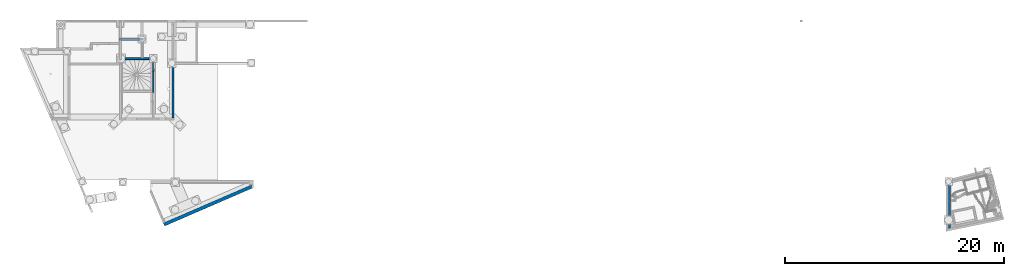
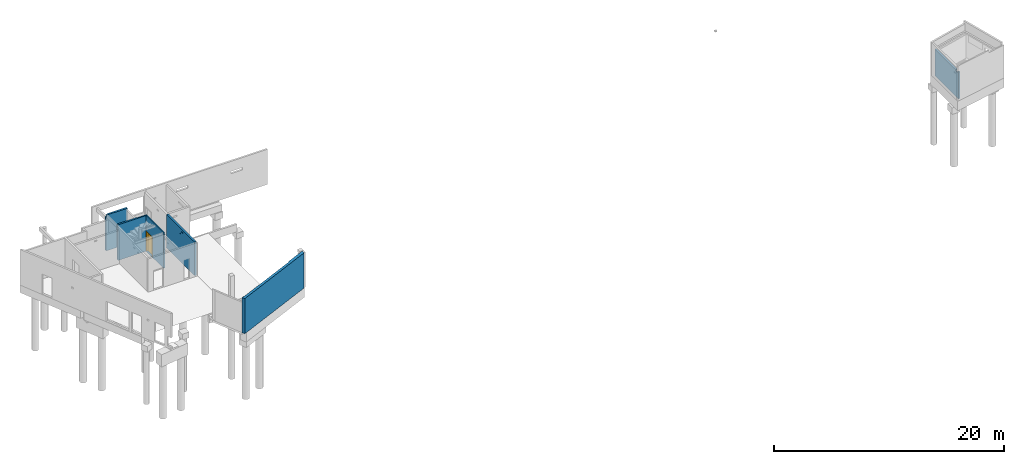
# One storey, part 15 of 29: 6 walls, 1 door, 1 opening.
"""IFC2X3 building model written with IfcOpenShell, lengths in centimetres."""

from ifc_helpers import new_model, entity, si_unit, converted_unit, derived_unit, direction, frame, frame_2d, origin, place, context, subcontext, project, spatial, rectangle, extrude, faceted_brep, source, transform, mapped, material, material_list, layer, layer_set, type_object, type_shapes, element, fill, save


model = new_model("IFC2X3")

# Units and contexts
model_context = context("Model", 3, precision=0.001, world=origin(), true_north=direction((6.12303176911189e-17, 1.0)))
body_context = subcontext(model_context, "Body", "Model", "MODEL_VIEW")
ifc_project = project(units=[si_unit("LENGTHUNIT", "METRE", prefix="CENTI"), si_unit("AREAUNIT", "SQUARE_METRE"), si_unit("VOLUMEUNIT", "CUBIC_METRE"), converted_unit("PLANEANGLEUNIT", "DEGREE", entity("IfcRatioMeasure", 0.0174532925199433), si_unit("PLANEANGLEUNIT", "RADIAN"), dimensions=[0, 0, 0, 0, 0, 0, 0]), si_unit("MASSUNIT", "GRAM", prefix="KILO"), derived_unit("MASSDENSITYUNIT", [(si_unit("MASSUNIT", "GRAM", prefix="KILO"), 1), (si_unit("LENGTHUNIT", "METRE"), -3)]), si_unit("TIMEUNIT", "SECOND"), si_unit("FREQUENCYUNIT", "HERTZ"), si_unit("THERMODYNAMICTEMPERATUREUNIT", "DEGREE_CELSIUS"), derived_unit("THERMALTRANSMITTANCEUNIT", [(si_unit("MASSUNIT", "GRAM", prefix="KILO"), 1), (si_unit("THERMODYNAMICTEMPERATUREUNIT", "KELVIN"), -1), (si_unit("TIMEUNIT", "SECOND"), -3)]), derived_unit("VOLUMETRICFLOWRATEUNIT", [(si_unit("LENGTHUNIT", "METRE"), 3), (si_unit("TIMEUNIT", "SECOND"), -1)]), si_unit("ELECTRICCURRENTUNIT", "AMPERE"), si_unit("ELECTRICVOLTAGEUNIT", "VOLT"), si_unit("POWERUNIT", "WATT"), si_unit("FORCEUNIT", "NEWTON"), si_unit("ILLUMINANCEUNIT", "LUX"), si_unit("LUMINOUSFLUXUNIT", "LUMEN"), si_unit("LUMINOUSINTENSITYUNIT", "CANDELA"), derived_unit("USERDEFINED", [(si_unit("MASSUNIT", "GRAM", prefix="KILO"), -1), (si_unit("LENGTHUNIT", "METRE"), -2), (si_unit("TIMEUNIT", "SECOND"), 3), (si_unit("LUMINOUSFLUXUNIT", "LUMEN"), 1)]), derived_unit("LINEARVELOCITYUNIT", [(si_unit("LENGTHUNIT", "METRE"), 1), (si_unit("TIMEUNIT", "SECOND"), -1)]), si_unit("PRESSUREUNIT", "PASCAL"), derived_unit("USERDEFINED", [(si_unit("LENGTHUNIT", "METRE"), -2), (si_unit("MASSUNIT", "GRAM", prefix="KILO"), 1), (si_unit("TIMEUNIT", "SECOND"), -2)])], contexts=[model_context])

# Site, building, storey
site_placement = place(None, origin())
site = spatial("IfcSite", under=ifc_project, at=site_placement, Name="Default", CompositionType="ELEMENT")
building_placement = place(site_placement, origin())
building = spatial("IfcBuilding", under=site, at=building_placement, Name="CAGE 03", CompositionType="ELEMENT")
storey_placement = place(building_placement, frame((0.0, 0.0, -34.0)))
storey = spatial("IfcBuildingStorey", under=building, at=storey_placement, Name="+3.66", CompositionType="ELEMENT", Elevation=-34.0000000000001)

# Wall
ifc_material_1 = material(Name="Béton, C25/30")
ifc_layer_1 = layer(ifc_material_1, 18.0)
ifc_layer_set_1 = layer_set([ifc_layer_1], Name="Mur de base:Voile BA 18")
wall_type_1 = type_object("IfcWallType", Name="Mur de base:Voile BA 18", PredefinedType="STANDARD", material=ifc_layer_set_1)
wall_1_placement = place(storey_placement, frame((3672.36582014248, 4941.66066607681, -5.0)))
element("IfcWall", 1, at=wall_1_placement, inside=storey, type_object=wall_type_1, Name="Mur de base:Voile BA 18", ObjectType="Mur de base:Voile BA 18", context=body_context, shape_type="Brep", body=[
    faceted_brep([(0.0, -9.0, 0.0), (195.0, -9.0, 0.0), (282.0, -9.0, 0.0), (300.0, -9.0, 0.0), (300.0, -9.0, 5.0), (300.0, -9.0, 215.0), (300.0, -9.0, 356.0), (294.500000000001, -9.0, 356.0), (294.500000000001, -9.0, 379.0), (282.0, -9.0, 379.0), (0.0, -9.0, 379.0), (300.0, 9.0, 0.0), (195.0, 9.0, 0.0), (0.0, 9.0, 0.0), (0.0, 9.0, 379.0), (195.0, 9.0, 379.0), (195.0, 9.0, 356.0), (300.0, 9.0, 356.0), (245.0, 9.0, 120.5), (245.0, 9.0, 99.5), (253.0, 9.0, 99.5), (253.0, 9.0, 120.5), (294.500000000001, 3.50000000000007, 379.0), (195.0, 3.50000000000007, 379.0), (195.0, 3.50000000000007, 356.0), (294.500000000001, 3.50000000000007, 356.0), (253.0, 3.0, 120.5), (253.0, 3.0, 99.5), (245.0, 3.0, 99.5), (245.0, 3.0, 120.5)], [[[0, 1, 2, 3, 4, 5, 6, 7, 8, 9, 10]], [[11, 12, 13, 14, 15, 16, 17], [18, 19, 20, 21]], [[3, 2, 1, 0, 13, 12, 11]], [[14, 10, 9, 8, 22, 23, 15]], [[3, 11, 17, 6, 5, 4]], [[0, 10, 14, 13]], [[24, 25, 7, 6, 17, 16]], [[25, 22, 8, 7]], [[25, 24, 23, 22]], [[23, 24, 16, 15]], [[26, 27, 28, 29]], [[29, 28, 19, 18]], [[28, 27, 20, 19]], [[27, 26, 21, 20]], [[26, 29, 18, 21]]]),
])

# Wall, opening, door
wall_2_placement = place(storey_placement, frame((3963.36582014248, 4932.66066607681, -5.0), z_axis=(0.0, 0.0, 1.0), x_axis=(0.0, -1.0, 0.0)))
wall_2 = element("IfcWall", 2, at=wall_2_placement, inside=storey, type_object=wall_type_1, Name="Mur de base:Voile BA 18", ObjectType="Mur de base:Voile BA 18", context=body_context, shape_type="Brep", body=[
    faceted_brep([(0.0, -9.0, 0.0), (282.0, -9.0, 0.0), (300.0, -9.0, 0.0), (300.0, -9.0, 5.0), (300.0, -9.0, 215.0), (300.0, -9.0, 356.0), (294.500000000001, -9.0, 356.0), (294.500000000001, -9.0, 379.0), (287.5, -9.0, 379.0), (282.0, -9.0, 379.0), (175.0, -9.0, 379.0), (0.0, -9.0, 379.0), (0.0, -9.0, 215.0), (107.0, -9.0, 215.0), (107.0, -9.0, 5.0), (0.0, -9.0, 5.0), (300.0, 9.0, 0.0), (0.0, 9.0, 0.0), (0.0, 9.0, 5.0), (107.0, 9.0, 5.0), (107.0, 9.0, 215.0), (0.0, 9.0, 215.0), (0.0, 9.0, 356.0), (300.0, 9.0, 356.0), (300.0, 9.0, 215.0), (300.0, 9.0, 5.0), (294.500000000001, 3.5000000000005, 379.0), (0.0, 3.5000000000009, 379.0), (0.0, 3.5000000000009, 356.0), (294.500000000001, 3.5000000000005, 356.0)], [[[0, 1, 2, 3, 4, 5, 6, 7, 8, 9, 10, 11, 12, 13, 14, 15]], [[16, 17, 18, 19, 20, 21, 22, 23, 24, 25]], [[2, 1, 0, 17, 16]], [[11, 10, 9, 8, 7, 26, 27]], [[17, 0, 15, 18]], [[2, 16, 25, 24, 23, 5, 4, 3]], [[20, 13, 12, 21]], [[19, 14, 13, 20]], [[14, 19, 18, 15]], [[28, 29, 6, 5, 23, 22]], [[29, 26, 7, 6]], [[26, 29, 28, 27]], [[12, 11, 27, 28, 22, 21]]]),
])
opening_placement = place(wall_2_placement, frame((0.0, -9.0, 5.0)))
opening = element("IfcOpeningElement", 3, at=opening_placement, cuts=wall_2, Name="Int. Simple:HB103:1", ObjectType="Opening", context=body_context, shape_type="SweptSolid", body=[
    extrude(rectangle(XDim=210.000000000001, YDim=107.0, at=frame_2d((105.000000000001, 53.4999999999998), x_axis=(1.0, 0.0))), frame((0.0, 0.0, 0.0), z_axis=(0.0, 1.0, 0.0), x_axis=(0.0, 0.0, 1.0)), (0.0, 0.0, 1.0), 18.0),
])
ifc_material_2 = material(Name="Finition Peinture - Blanc satiné")
ifc_material_3 = material(Name="Bois - Panneau de porte")
ifc_material_4 = material(Name="Bois - Cadre de porte")
ifc_material_list_1 = material_list([ifc_material_2, ifc_material_3, ifc_material_4])
ifc_material_list_2 = material_list([ifc_material_2, ifc_material_3, ifc_material_4])
door_style = type_object("IfcDoorStyle", Name="HB103", ConstructionType="NOTDEFINED", OperationType="SINGLE_SWING_LEFT", ParameterTakesPrecedence=False, Sizeable=False, material=ifc_material_list_2)
shared_shape = source(origin(), body_context, "Body", "Brep", [
    faceted_brep([(10.5352761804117, -0.500000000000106, 86.6003983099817), (11.5000000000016, -0.500000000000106, 87.0), (11.5000000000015, -0.500000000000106, 108.0), (10.5352761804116, -0.500000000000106, 108.399601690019), (9.50000000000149, -0.500000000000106, 108.535898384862), (8.46472381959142, -0.500000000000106, 108.399601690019), (7.50000000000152, -0.500000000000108, 108.0), (7.50000000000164, -0.500000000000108, 87.0), (8.46472381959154, -0.500000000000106, 86.6003983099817), (9.5000000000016, -0.500000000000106, 86.464101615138), (10.5352761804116, 0.0, 108.399601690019), (11.5000000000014, 0.0, 108.0), (11.5000000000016, 0.0, 87.0), (10.5352761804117, 0.0, 86.6003983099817), (9.5000000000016, 0.0, 86.464101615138), (8.46472381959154, 0.0, 86.6003983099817), (7.50000000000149, 0.0, 87.0), (7.50000000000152, 0.0, 108.0), (8.46472381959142, 0.0, 108.399601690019), (9.50000000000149, 0.0, 108.535898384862)], [[[0, 1, 2, 3, 4, 5, 6, 7, 8, 9]], [[10, 11, 12, 13, 14, 15, 16, 17, 18, 19]], [[16, 15, 8, 7]], [[8, 15, 14, 9]], [[14, 13, 0, 9]], [[13, 12, 1, 0]], [[2, 1, 12, 11]], [[11, 10, 3, 2]], [[3, 10, 19, 4]], [[19, 18, 5, 4]], [[18, 17, 6, 5]], [[7, 6, 17, 16]]]),
    faceted_brep([(10.5352761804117, 3.0, 86.6003983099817), (11.5000000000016, 3.0, 87.0), (11.5000000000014, 3.0, 108.0), (10.5352761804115, 3.0, 108.399601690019), (9.50000000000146, 3.0, 108.535898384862), (8.4647238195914, 3.0, 108.399601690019), (7.50000000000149, 3.0, 108.0), (7.50000000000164, 3.0, 87.0), (8.46472381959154, 3.0, 86.6003983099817), (9.50000000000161, 3.0, 86.464101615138), (10.5352761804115, 3.49999999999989, 108.399601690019), (11.5000000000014, 3.49999999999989, 108.0), (11.5000000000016, 3.49999999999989, 87.0), (10.5352761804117, 3.49999999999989, 86.6003983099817), (9.50000000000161, 3.49999999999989, 86.464101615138), (8.46472381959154, 3.49999999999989, 86.6003983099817), (7.50000000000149, 3.49999999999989, 87.0), (7.50000000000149, 3.49999999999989, 108.0), (8.4647238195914, 3.49999999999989, 108.399601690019), (9.50000000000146, 3.49999999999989, 108.535898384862)], [[[0, 1, 2, 3, 4, 5, 6, 7, 8, 9]], [[10, 11, 12, 13, 14, 15, 16, 17, 18, 19]], [[11, 10, 3, 2]], [[3, 10, 19, 4]], [[19, 18, 5, 4]], [[18, 17, 6, 5]], [[7, 6, 17, 16]], [[16, 15, 8, 7]], [[8, 15, 14, 9]], [[14, 13, 0, 9]], [[13, 12, 1, 0]], [[2, 1, 12, 11]]]),
    faceted_brep([(9.29747013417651, -0.500000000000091, 100.778044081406), (9.70252986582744, -0.500000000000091, 100.778044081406), (10.1000000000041, -0.500000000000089, 100.699999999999), (10.1000000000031, -0.500000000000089, 99.3000000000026), (9.7025298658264, -0.500000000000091, 99.2219559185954), (9.29747013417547, -0.500000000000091, 99.2219559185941), (8.89999999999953, -0.500000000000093, 99.2999999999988), (8.89999999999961, -0.500000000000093, 100.7), (8.8999999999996, -3.26509507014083, 100.7), (9.29747013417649, -3.1004575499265, 100.778044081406), (10.9023585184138, -4.70534593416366, 100.778044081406), (11.0701397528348, -4.30028620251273, 100.778044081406), (9.70252986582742, -2.93267631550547, 100.778044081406), (10.1000000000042, -2.76803879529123, 100.7), (10.1000000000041, -2.76803879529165, 99.3000000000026), (9.7025298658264, -2.93267631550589, 99.2219559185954), (11.0701397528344, -4.30028620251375, 99.2219559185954), (10.9023585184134, -4.70534593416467, 99.2219559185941), (9.29747013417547, -3.10045754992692, 99.2219559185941), (8.89999999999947, -3.26509507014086, 99.2999999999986), (10.7377209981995, -5.10281606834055, 100.7), (11.2347772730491, -3.90281606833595, 100.7), (11.2347772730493, -3.90281606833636, 99.3000000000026), (10.7377209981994, -5.10281606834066, 99.2999999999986), (19.5018640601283, -5.10281606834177, 99.2999999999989), (19.5018640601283, -4.70534593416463, 99.2219559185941), (19.5018640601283, -4.30028620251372, 99.2219559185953), (19.5018640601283, -3.90281606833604, 99.3000000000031), (19.5018640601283, -3.90281606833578, 100.7), (19.5018640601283, -4.30028620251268, 100.778044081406), (19.5018640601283, -4.7053459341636, 100.778044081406), (19.5018640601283, -5.10281606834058, 100.699999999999), (14.7307697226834, -5.10281606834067, 100.7), (15.2860019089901, -4.50281606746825, 100.78786867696), (15.3683206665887, -3.90281606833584, 100.7), (15.3683206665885, -3.90281606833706, 99.3000000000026), (15.2860018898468, -4.50281607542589, 99.2121313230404), (14.7307703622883, -5.10281606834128, 99.2999999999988)], [[[0, 1, 2, 3, 4, 5, 6, 7]], [[8, 9, 0, 7]], [[9, 10, 11, 12, 1, 0]], [[12, 13, 2, 1]], [[3, 2, 13, 14]], [[14, 15, 4, 3]], [[15, 16, 17, 18, 5, 4]], [[18, 19, 6, 5]], [[7, 6, 19, 8]], [[20, 10, 9, 8]], [[11, 21, 13, 12]], [[14, 13, 21, 22]], [[22, 16, 15, 14]], [[17, 23, 19, 18]], [[8, 19, 23, 20]], [[24, 25, 26, 27, 28, 29, 30, 31]], [[32, 30, 33]], [[31, 30, 32]], [[10, 20, 32]], [[33, 34, 11]], [[21, 11, 34]], [[34, 29, 28]], [[30, 29, 33]], [[29, 34, 33]], [[10, 32, 33]], [[10, 33, 11]], [[22, 21, 34, 28, 27, 35]], [[35, 26, 36]], [[37, 36, 25]], [[22, 35, 16]], [[35, 27, 26]], [[24, 37, 25]], [[23, 17, 37]], [[37, 17, 36]], [[17, 16, 36]], [[16, 35, 36]], [[25, 36, 26]], [[20, 23, 37, 24, 31, 32]]]),
    faceted_brep([(9.29747013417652, 3.49999999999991, 100.778044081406), (8.89999999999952, 3.4999999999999, 100.7), (8.89999999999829, 3.4999999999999, 99.299999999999), (9.29747013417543, 3.49999999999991, 99.2219559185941), (9.70252986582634, 3.49999999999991, 99.2219559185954), (10.1000000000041, 3.49999999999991, 99.3000000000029), (10.1000000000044, 3.49999999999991, 100.7), (9.70252986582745, 3.49999999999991, 100.778044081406), (10.1000000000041, 5.74852045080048, 99.3000000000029), (10.1000000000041, 5.74852045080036, 100.7), (9.70252986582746, 5.91315797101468, 100.778044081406), (11.0838906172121, 7.29451872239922, 100.778044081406), (10.9161093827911, 7.69957845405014, 100.778044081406), (9.29747013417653, 6.08093920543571, 100.778044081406), (8.89999999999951, 6.2455767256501, 100.7), (8.8999999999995, 6.24557672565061, 99.299999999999), (9.29747013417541, 6.08093920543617, 99.2219559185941), (10.9161093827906, 7.69957845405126, 99.2219559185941), (11.0838906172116, 7.29451872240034, 99.2219559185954), (9.70252986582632, 5.91315797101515, 99.2219559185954), (11.2485281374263, 6.89704858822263, 99.3000000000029), (11.2485281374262, 6.89704858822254, 100.7), (10.7514718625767, 8.09704858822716, 100.7), (10.7514718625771, 8.09704858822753, 99.299999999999), (19.5045783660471, 6.8970485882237, 99.3000000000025), (19.5045783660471, 7.29451872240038, 99.2219559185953), (19.5045783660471, 7.6995784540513, 99.2219559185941), (19.5045783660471, 8.09704858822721, 99.2999999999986), (19.5045783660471, 8.0970485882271, 100.7), (19.5045783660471, 7.6995784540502, 100.778044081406), (19.5045783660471, 7.29451872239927, 100.778044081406), (19.5045783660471, 6.89704858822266, 100.7), (15.3765532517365, 6.89704858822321, 99.3000000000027), (15.3765532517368, 6.89704858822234, 100.7), (15.2942344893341, 7.4970485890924, 100.78786867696), (14.7445205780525, 8.09704858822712, 100.7), (14.7445205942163, 8.09704858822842, 99.299999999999), (15.2942345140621, 7.49704858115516, 99.2121313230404)], [[[0, 1, 2, 3, 4, 5, 6, 7]], [[6, 5, 8, 9]], [[9, 10, 7, 6]], [[10, 11, 12, 13, 0, 7]], [[13, 14, 1, 0]], [[2, 1, 14, 15]], [[15, 16, 3, 2]], [[16, 17, 18, 19, 4, 3]], [[19, 8, 5, 4]], [[9, 8, 20, 21]], [[21, 11, 10, 9]], [[12, 22, 14, 13]], [[15, 14, 22, 23]], [[23, 17, 16, 15]], [[18, 20, 8, 19]], [[24, 25, 26, 27, 28, 29, 30, 31]], [[21, 20, 32, 24, 31, 33]], [[33, 30, 34]], [[35, 34, 29]], [[21, 33, 11]], [[33, 31, 30]], [[28, 35, 29]], [[22, 12, 35]], [[35, 12, 34]], [[12, 11, 34]], [[11, 33, 34]], [[29, 34, 30]], [[22, 35, 28, 27, 36, 23]], [[36, 26, 37]], [[27, 26, 36]], [[17, 23, 36]], [[37, 32, 18]], [[20, 18, 32]], [[32, 25, 24]], [[26, 25, 37]], [[25, 32, 37]], [[17, 36, 37]], [[17, 37, 18]]]),
    faceted_brep([(3.5000000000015, 3.0, 206.5), (103.500000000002, 3.0, 206.5), (103.500000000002, 3.0, 0.0), (3.5000000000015, 3.0, 0.0), (3.5000000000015, 0.0, 206.5), (3.5000000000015, 0.0, 0.0), (103.500000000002, 0.0, 0.0), (103.500000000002, 0.0, 206.5)], [[[0, 1, 2, 3]], [[4, 5, 6, 7]], [[1, 0, 4, 7]], [[2, 1, 7, 6]], [[3, 2, 6, 5]], [[0, 3, 5, 4]]]),
    faceted_brep([(0.0, 0.0, 0.0), (0.0, 18.0, 0.0), (5.0, 18.0, 0.0), (5.0, 3.0, 0.0), (3.50000000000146, 3.0, 0.0), (3.50000000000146, 0.0, 0.0), (0.0, 0.0, 210.0), (0.0, 18.0, 210.0), (107.0, 18.0, 210.0), (107.0, 18.0, 0.0), (102.0, 18.0, 0.0), (102.0, 18.0, 205.0), (5.0, 18.0, 205.0), (5.0, 3.0, 205.0), (102.0, 3.0, 205.0), (102.0, 3.0, 0.0), (103.499999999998, 3.0, 0.0), (103.499999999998, 3.0, 206.5), (3.50000000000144, 3.0, 206.5), (3.50000000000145, 0.0, 206.5), (103.499999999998, 0.0, 206.5), (103.499999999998, 0.0, 0.0), (107.0, 0.0, 0.0), (107.0, 0.0, 210.0)], [[[0, 1, 2, 3, 4, 5]], [[1, 0, 6, 7]], [[2, 1, 7, 8, 9, 10, 11, 12]], [[3, 2, 12, 13]], [[4, 3, 13, 14, 15, 16, 17, 18]], [[5, 4, 18, 19]], [[0, 5, 19, 20, 21, 22, 23, 6]], [[8, 23, 22, 9]], [[22, 21, 16, 15, 10, 9]], [[14, 11, 10, 15]], [[20, 17, 16, 21]], [[7, 6, 23, 8]], [[13, 12, 11, 14]], [[19, 18, 17, 20]]]),
    faceted_brep([(1.49999999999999, 18.0, 0.0), (-1.5, 18.0, 0.0), (-1.5, 18.5000000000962, 0.0), (1.49999999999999, 18.5000000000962, 0.0), (1.49999999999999, 18.0, 208.500000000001), (105.5, 18.0, 208.500000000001), (105.5, 18.0, 0.0), (108.5, 18.0, 0.0), (108.5, 18.0, 211.500000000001), (-1.50000000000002, 18.0, 211.500000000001), (-1.5, 18.5000000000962, 211.500000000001), (108.5, 18.5000000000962, 211.500000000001), (108.5, 18.5000000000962, 0.0), (105.5, 18.5000000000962, 0.0), (105.5, 18.5000000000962, 208.500000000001), (1.49999999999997, 18.5000000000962, 208.500000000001)], [[[0, 1, 2, 3]], [[1, 0, 4, 5, 6, 7, 8, 9]], [[2, 1, 9, 10]], [[3, 2, 10, 11, 12, 13, 14, 15]], [[0, 3, 15, 4]], [[6, 13, 12, 7]], [[5, 14, 13, 6]], [[11, 8, 7, 12]], [[10, 9, 8, 11]], [[4, 15, 14, 5]]]),
    faceted_brep([(-1.5, -0.5, 0.0), (1.49999999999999, -0.5, 0.0), (1.49999999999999, -0.5, 208.500000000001), (105.5, -0.5, 208.500000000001), (105.5, -0.5, 0.0), (108.5, -0.5, 0.0), (108.5, -0.5, 211.500000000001), (-1.50000000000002, -0.5, 211.500000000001), (-1.5, 0.0, 0.0), (-1.5, 0.0, 211.500000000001), (1.49999999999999, 0.0, 0.0), (108.5, 0.0, 211.500000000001), (108.5, 0.0, 0.0), (105.5, 0.0, 0.0), (105.5, 0.0, 208.500000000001), (1.49999999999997, 0.0, 208.500000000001)], [[[0, 1, 2, 3, 4, 5, 6, 7]], [[8, 0, 7, 9]], [[10, 8, 9, 11, 12, 13, 14, 15]], [[1, 10, 15, 2]], [[3, 14, 13, 4]], [[11, 6, 5, 12]], [[9, 7, 6, 11]], [[2, 15, 14, 3]], [[4, 13, 12, 5]], [[1, 0, 8, 10]]]),
])
type_shapes(door_style, [shared_shape])
door_placement = place(opening_placement, frame((107.0, 18.0, 0.0), z_axis=(0.0, 0.0, 1.0), x_axis=(-1.0, 0.0, 0.0)))
door = element("IfcDoor", 4, at=door_placement, inside=storey, type_object=door_style, material=ifc_material_list_1, Name="Int. Simple:HB103", ObjectType="HB103", OverallHeight=210.000000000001, OverallWidth=107.0, context=body_context, shape_type="MappedRepresentation", body=[
    mapped(shared_shape, transform((0.0, 0.0, 0.0), scale=1.0)),
])
fill(opening, door)

# Walls
wall_3_placement = place(storey_placement, frame((3654.36582014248, 5119.66066607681, -5.0)))
element("IfcWall", 5, at=wall_3_placement, inside=storey, type_object=wall_type_1, Name="Mur de base:Voile BA 18", ObjectType="Mur de base:Voile BA 18", context=body_context, shape_type="Brep", body=[
    faceted_brep([(0.0, -9.0, 0.0), (18.0, -9.0, 0.0), (213.0, -9.0, 0.0), (216.0, -9.0, 0.0), (216.0, -9.0, 232.0), (216.0, -9.0, 334.0), (216.0, -9.0, 356.0), (213.0, -9.0, 356.0), (213.0, -9.0, 372.0), (213.0, -9.0, 379.0), (18.0, -9.0, 379.0), (5.49999999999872, -9.0, 379.0), (5.49999999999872, -9.0, 356.0), (0.0, -9.0, 356.0), (216.0, 9.0, 0.0), (213.0, 9.0, 0.0), (18.0, 9.0, 0.0), (0.0, 9.0, 0.0), (0.0, 9.0, 5.0), (0.0, 9.0, 316.0), (0.0, 9.0, 356.0), (18.0, 9.0, 356.0), (18.0, 9.0, 379.0), (213.0, 9.0, 379.0), (213.0, 9.0, 356.0), (216.0, 9.0, 356.0), (216.0, 9.0, 334.0), (18.0, 3.50000000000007, 379.0), (5.49999999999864, 3.50000000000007, 379.0), (18.0, 3.50000000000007, 356.0), (5.49999999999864, 3.50000000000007, 356.0)], [[[0, 1, 2, 3, 4, 5, 6, 7, 8, 9, 10, 11, 12, 13]], [[14, 15, 16, 17, 18, 19, 20, 21, 22, 23, 24, 25, 26]], [[3, 2, 1, 0, 17, 16, 15, 14]], [[11, 10, 9, 23, 22, 27, 28]], [[3, 14, 26, 25, 6, 5, 4]], [[17, 0, 13, 20, 19, 18]], [[24, 7, 6, 25]], [[7, 24, 23, 9, 8]], [[29, 27, 22, 21]], [[29, 30, 28, 27]], [[28, 30, 12, 11]], [[30, 29, 21, 20, 13, 12]]]),
])
wall_4_placement = place(storey_placement, frame((4143.36582014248, 4895.66066607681, -5.0), z_axis=(0.0, 0.0, 1.0), x_axis=(0.0, -1.0, 0.0)))
element("IfcWall", 6, at=wall_4_placement, inside=storey, type_object=wall_type_1, Name="Mur de base:Voile BA 18", ObjectType="Mur de base:Voile BA 18", context=body_context, shape_type="Brep", body=[
    faceted_brep([(0.0, -9.0, 0.0), (9.0, -9.0, 0.0), (0.0, -9.0, 5.0), (9.0, -9.0, 5.0), (459.0, -9.0, 0.0), (244.040404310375, -9.0, 288.214646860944), (245.852137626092, -9.0, 288.45316607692), (247.540404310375, -9.0, 289.152469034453), (248.99015177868, -9.0, 290.264899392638), (296.183625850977, -9.0, 321.076580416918), (439.499999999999, -9.0, 356.0), (479.499999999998, -9.0, 356.0), (496.0, -9.0, 0.0), (496.0, -9.0, 356.0), (296.183625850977, -9.0, 335.076580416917), (263.183625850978, -9.0, 335.076580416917), (9.0, -9.0, 356.0), (237.978226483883, -9.0, 291.714646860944), (237.278923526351, -9.0, 293.402913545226), (237.040404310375, -9.0, 295.214646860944), (237.278923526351, -9.0, 297.026380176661), (237.978226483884, -9.0, 298.714646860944), (239.090656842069, -9.0, 300.16439432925), (240.540404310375, -9.0, 301.276824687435), (242.228670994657, -9.0, 301.976127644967), (263.183625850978, -9.0, 321.076580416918), (250.102582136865, -9.0, 291.714646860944), (250.801885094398, -9.0, 293.402913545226), (251.040404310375, -9.0, 295.214646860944), (244.040404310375, -9.0, 302.214646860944), (245.852137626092, -9.0, 301.976127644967), (250.801885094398, -9.0, 297.026380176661), (247.540404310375, -9.0, 301.276824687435), (248.99015177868, -9.0, 300.16439432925), (250.102582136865, -9.0, 298.714646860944), (242.228670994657, -9.0, 288.45316607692), (240.540404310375, -9.0, 289.152469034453), (239.090656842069, -9.0, 290.264899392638), (296.183625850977, 9.0, 321.076580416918), (250.102582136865, 9.0, 291.714646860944), (250.801885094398, 9.0, 293.402913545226), (251.040404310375, 9.0, 295.214646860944), (248.99015177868, 9.0, 290.264899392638), (459.0, 9.0, 0.0), (496.0, 9.0, 356.0), (296.183625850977, 9.0, 335.076580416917), (263.183625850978, 9.0, 321.076580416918), (263.183625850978, 9.0, 335.076580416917), (9.0, 9.0, 356.0), (242.228670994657, 9.0, 301.976127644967), (239.090656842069, 9.0, 300.16439432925), (240.540404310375, 9.0, 301.276824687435), (237.978226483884, 9.0, 298.714646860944), (237.278923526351, 9.0, 297.026380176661), (237.040404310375, 9.0, 295.214646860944), (237.278923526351, 9.0, 293.402913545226), (237.978226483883, 9.0, 291.714646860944), (9.0, 9.0, 5.0), (239.090656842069, 9.0, 290.264899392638), (240.540404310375, 9.0, 289.152469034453), (242.228670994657, 9.0, 288.45316607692), (244.040404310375, 9.0, 288.214646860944), (245.852137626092, 9.0, 288.45316607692), (247.540404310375, 9.0, 289.152469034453), (9.0, 9.0, 0.0), (0.0, 9.0, 5.0), (496.0, 9.0, 0.0), (0.0, 9.0, 0.0), (250.801885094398, 9.0, 297.026380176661), (250.102582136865, 9.0, 298.714646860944), (248.99015177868, 9.0, 300.16439432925), (247.540404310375, 9.0, 301.276824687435), (245.852137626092, 9.0, 301.976127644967), (244.040404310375, 9.0, 302.214646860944)], [[[0, 1, 2]], [[3, 2, 1]], [[3, 1, 4]], [[3, 4, 5]], [[6, 5, 4]], [[7, 6, 4]], [[7, 4, 8]], [[4, 9, 8]], [[4, 10, 9]], [[10, 4, 11]], [[12, 11, 4]], [[12, 13, 11]], [[14, 9, 10]], [[14, 10, 15]], [[15, 10, 16]], [[16, 3, 17]], [[18, 16, 17]], [[18, 19, 16]], [[20, 16, 19]], [[16, 20, 21]], [[16, 21, 22]], [[16, 22, 15]], [[15, 22, 23]], [[15, 23, 24]], [[25, 15, 24]], [[9, 26, 8]], [[26, 9, 27]], [[9, 28, 27]], [[28, 9, 25]], [[25, 24, 29]], [[25, 29, 30]], [[25, 31, 28]], [[25, 30, 32]], [[25, 32, 33]], [[33, 34, 25]], [[31, 25, 34]], [[5, 35, 3]], [[35, 36, 3]], [[36, 37, 3]], [[37, 17, 3]], [[38, 39, 40]], [[38, 40, 41]], [[38, 42, 39]], [[43, 42, 38]], [[44, 43, 38]], [[45, 44, 38]], [[46, 38, 41]], [[44, 45, 47]], [[47, 48, 44]], [[47, 46, 49]], [[50, 48, 47]], [[51, 47, 49]], [[47, 51, 50]], [[52, 48, 50]], [[52, 53, 48]], [[48, 53, 54]], [[54, 55, 48]], [[55, 56, 48]], [[48, 56, 57]], [[56, 58, 57]], [[58, 59, 57]], [[60, 57, 59]], [[60, 61, 57]], [[43, 61, 62]], [[61, 43, 57]], [[62, 63, 43]], [[63, 42, 43]], [[43, 64, 57]], [[65, 57, 64]], [[44, 66, 43]], [[64, 67, 65]], [[46, 41, 68]], [[69, 46, 68]], [[69, 70, 46]], [[71, 46, 70]], [[46, 71, 72]], [[73, 46, 72]], [[49, 46, 73]], [[1, 0, 67, 64, 43, 66, 12, 4]], [[11, 13, 44, 48, 16, 10]], [[13, 12, 66, 44]], [[0, 2, 65, 67]], [[2, 3, 57, 65]], [[57, 3, 16, 48]], [[26, 27, 40, 39]], [[26, 39, 42, 8]], [[6, 7, 63, 62]], [[42, 63, 7, 8]], [[5, 6, 62, 61]], [[28, 41, 40, 27]], [[36, 35, 60, 59]], [[36, 59, 58, 37]], [[18, 17, 56, 55]], [[58, 56, 17, 37]], [[19, 18, 55, 54]], [[61, 60, 35, 5]], [[53, 20, 19, 54]], [[24, 23, 51, 49]], [[22, 50, 51, 23]], [[24, 49, 73, 29]], [[21, 20, 53, 52]], [[52, 50, 22, 21]], [[32, 30, 72, 71]], [[32, 71, 70, 33]], [[31, 34, 69, 68]], [[70, 69, 34, 33]], [[28, 31, 68, 41]], [[73, 72, 30, 29]], [[47, 45, 14, 15]], [[47, 15, 25, 46]], [[38, 46, 25, 9]], [[38, 9, 14, 45]]]),
])
ifc_layer_2 = layer(ifc_material_1, 16.0)
ifc_layer_set_2 = layer_set([ifc_layer_2], Name="Mur de base:Voile BA 16")
wall_type_2 = type_object("IfcWallType", Name="Mur de base:Voile BA 16", PredefinedType="STANDARD", material=ifc_layer_set_2)
wall_5_placement = place(storey_placement, frame((11232.3658201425, 3803.55813259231, 1.0), z_axis=(0.0, 0.0, 1.0), x_axis=(0.0, -1.0, 0.0)))
element("IfcWall", 7, at=wall_5_placement, inside=storey, type_object=wall_type_2, Name="Mur de base:Voile BA 16", ObjectType="Mur de base:Voile BA 16", context=body_context, shape_type="Brep", body=[
    faceted_brep([(4.1784663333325, -8.0, 0.0), (412.405335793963, -8.0, 0.0), (412.405335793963, -8.0, 284.0), (395.450033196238, -8.0, 284.0), (395.450033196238, -8.0, 269.0), (365.450033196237, -8.0, 269.0), (365.450033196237, -8.0, 284.0), (4.1784663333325, -8.0, 284.0), (409.10767178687, 8.0, 0.0), (392.771375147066, 8.0, 0.0), (0.0, 8.0, 0.0), (0.0, 8.0, 249.0), (392.771375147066, 8.0, 249.0), (397.36595857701, 8.0, 249.0), (397.36595857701, 8.0, 269.0), (395.450033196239, 8.0, 269.0), (395.450033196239, 8.0, 284.0), (409.10767178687, 8.0, 284.0), (0.0, 8.0, 284.0), (0.0, 8.0, 269.0), (1.43634780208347, 2.49999999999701, 269.0), (1.43634780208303, 2.49999999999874, 249.0), (398.499530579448, 2.50000000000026, 249.0), (398.499530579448, 2.50000000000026, 269.0), (365.450033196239, 2.50000000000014, 269.0), (395.450033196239, 2.50000000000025, 269.0), (365.450033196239, 8.0, 269.0), (365.450033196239, 8.0, 284.0)], [[[0, 1, 2, 3, 4, 5, 6, 7]], [[8, 9, 10, 11, 12, 13, 14, 15, 16, 17]], [[1, 0, 10, 9, 8]], [[2, 17, 16, 3]], [[0, 7, 18, 19, 20, 21, 11, 10]], [[2, 1, 8, 17]], [[22, 13, 12, 11, 21]], [[22, 23, 14, 13]], [[23, 22, 21, 20, 24, 25]], [[14, 23, 25, 15]], [[5, 24, 26, 27, 6]], [[24, 5, 4, 25]], [[25, 4, 3, 16, 15]], [[20, 19, 26, 24]], [[18, 7, 6, 27]], [[19, 18, 27, 26]]]),
])
ifc_material_5 = material(Name="Stépoc")
ifc_material_list_3 = material_list([ifc_material_5, ifc_material_1, ifc_material_5])
wall_type_3 = type_object("IfcWallType", Name="Mur de base:stepoc 30", PredefinedType="NOTDEFINED")
wall_6_placement = place(storey_placement, frame((4061.33357176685, 3425.90613833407, 0.0), z_axis=(0.0, 0.0, 1.0), x_axis=(0.917772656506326, 0.39710622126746, 0.0)))
element("IfcWall", 8, at=wall_6_placement, inside=storey, type_object=wall_type_3, material=ifc_material_list_3, Name="Mur de base:stepoc 30", ObjectType="Mur de base:stepoc 30", context=body_context, shape_type="Brep", body=[
    faceted_brep([(0.0, -15.0, 0.0), (21.2045894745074, -15.0, 0.0), (864.130838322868, -15.0, 0.0), (864.130838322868, -15.0, 374.0), (668.003835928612, -15.0, 374.0), (648.391135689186, -15.0, 374.0), (0.0, -15.0, 374.0), (877.111380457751, 15.0, 0.0), (868.310004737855, 15.0, 0.0), (21.2045894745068, 15.0, 0.0), (15.0, 15.0, 0.0), (0.0, 15.0, 0.0), (0.0, 15.0, 322.0), (0.0, 15.0, 374.0), (18.0, 15.0, 374.0), (18.0, 15.0, 351.0), (680.984378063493, 15.0, 351.0), (680.984378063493, 15.0, 374.0), (809.556524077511, 15.0, 374.0), (877.111380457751, 15.0, 374.0), (877.111380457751, 15.0, 349.0), (809.556524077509, 15.0, 349.0), (680.984378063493, 15.0, 349.0), (680.984378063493, 15.0, 329.0), (809.556524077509, 15.0, 329.0), (877.111380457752, 15.0, 329.0), (877.111380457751, 15.0, 274.0), (678.604612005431, 9.49999999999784, 374.0), (18.0, 9.50000000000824, 374.0), (0.0, 3.0, 374.0), (874.731614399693, 9.50000000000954, 329.0), (874.731614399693, 9.50000000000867, 349.0), (678.60461200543, 9.49999999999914, 329.0), (678.60461200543, 9.49999999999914, 349.0), (18.0, 9.5000000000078, 351.0), (678.604612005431, 9.49999999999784, 351.0)], [[[0, 1, 2, 3, 4, 5, 6]], [[7, 8, 9, 10, 11, 12, 13, 14, 15, 16, 17, 18, 19, 20, 21, 22, 23, 24, 25, 26]], [[2, 1, 0, 11, 10, 9, 8, 7]], [[6, 5, 4, 3, 19, 18, 17, 27, 28, 14, 13, 29]], [[0, 6, 29, 13, 12, 11]], [[3, 2, 7, 26, 25, 30, 31, 20, 19]], [[32, 30, 25, 24, 23]], [[31, 33, 22, 21, 20]], [[33, 32, 23, 22]], [[30, 32, 33, 31]], [[34, 35, 16, 15]], [[35, 27, 17, 16]], [[35, 34, 28, 27]], [[28, 34, 15, 14]]]),
])

save(model, "model.ifc")
